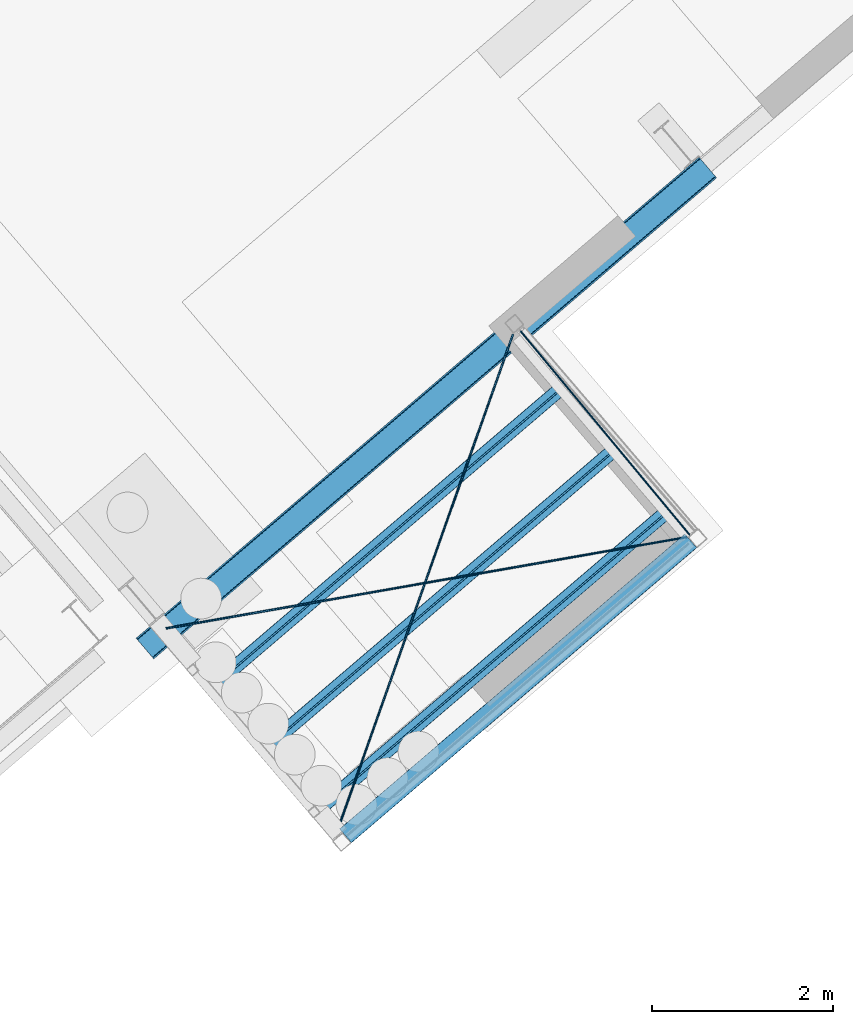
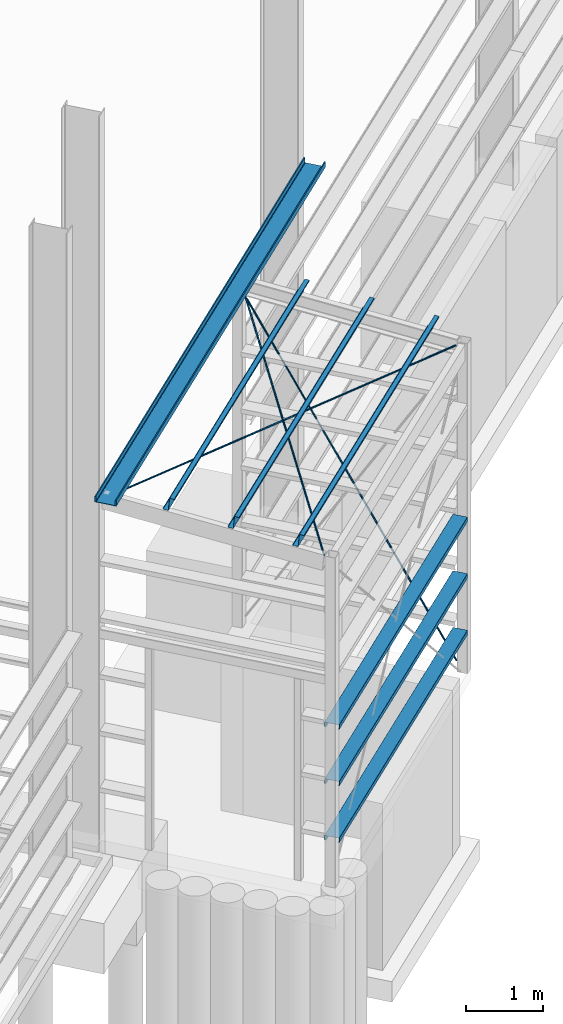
# One storey, part 21 of 41: 9 beams, 1 member, 2 elements without a shape of their own.
"""IFC2X3 building model written with IfcOpenShell, lengths in millimetres."""

from ifc_helpers import new_model, entity, si_unit, converted_unit, derived_unit, direction, frame, frame_2d, origin, place, context, subcontext, project, spatial, polyline, circle_curve, parameter, trimmed, segment, composite_curve, circle, outline, extrude, source, transform, mapped, material, type_object, type_shapes, element, aggregate, save


model = new_model("IFC2X3")

# Units and contexts
model_context = context("Model", 3, precision=0.01, world=origin(), true_north=direction((6.123031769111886e-17, 1.0)))
body_context = subcontext(model_context, "Body", "Model", "MODEL_VIEW")
ifc_project = project(units=[si_unit("LENGTHUNIT", "METRE", prefix="MILLI"), si_unit("AREAUNIT", "SQUARE_METRE"), si_unit("VOLUMEUNIT", "CUBIC_METRE"), converted_unit("PLANEANGLEUNIT", "DEGREE", entity("IfcRatioMeasure", 0.017453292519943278), si_unit("PLANEANGLEUNIT", "RADIAN"), dimensions=[0, 0, 0, 0, 0, 0, 0]), si_unit("MASSUNIT", "GRAM", prefix="KILO"), derived_unit("MASSDENSITYUNIT", [(si_unit("MASSUNIT", "GRAM", prefix="KILO"), 1), (si_unit("LENGTHUNIT", "METRE"), -3)]), derived_unit("MOMENTOFINERTIAUNIT", [(si_unit("LENGTHUNIT", "METRE"), 4)]), si_unit("TIMEUNIT", "SECOND"), si_unit("FREQUENCYUNIT", "HERTZ"), si_unit("THERMODYNAMICTEMPERATUREUNIT", "DEGREE_CELSIUS"), derived_unit("THERMALTRANSMITTANCEUNIT", [(si_unit("MASSUNIT", "GRAM", prefix="KILO"), 1), (si_unit("THERMODYNAMICTEMPERATUREUNIT", "KELVIN"), -1), (si_unit("TIMEUNIT", "SECOND"), -3)]), derived_unit("VOLUMETRICFLOWRATEUNIT", [(si_unit("LENGTHUNIT", "METRE"), 3), (si_unit("TIMEUNIT", "SECOND"), -1)]), derived_unit("MASSFLOWRATEUNIT", [(si_unit("MASSUNIT", "GRAM", prefix="KILO"), 1), (si_unit("TIMEUNIT", "SECOND"), -1)]), derived_unit("ROTATIONALFREQUENCYUNIT", [(si_unit("TIMEUNIT", "SECOND"), -1)]), si_unit("ELECTRICCURRENTUNIT", "AMPERE"), si_unit("ELECTRICVOLTAGEUNIT", "VOLT"), si_unit("POWERUNIT", "WATT"), si_unit("FORCEUNIT", "NEWTON", prefix="KILO"), si_unit("ILLUMINANCEUNIT", "LUX"), si_unit("LUMINOUSFLUXUNIT", "LUMEN"), si_unit("LUMINOUSINTENSITYUNIT", "CANDELA"), derived_unit("USERDEFINED", [(si_unit("MASSUNIT", "GRAM", prefix="KILO"), -1), (si_unit("LENGTHUNIT", "METRE"), -2), (si_unit("TIMEUNIT", "SECOND"), 3), (si_unit("LUMINOUSFLUXUNIT", "LUMEN"), 1)]), derived_unit("SOUNDPOWERUNIT", [(si_unit("MASSUNIT", "GRAM", prefix="KILO"), 1), (si_unit("LENGTHUNIT", "METRE"), 2), (si_unit("TIMEUNIT", "SECOND"), -3)]), derived_unit("LINEARVELOCITYUNIT", [(si_unit("LENGTHUNIT", "METRE"), 1), (si_unit("TIMEUNIT", "SECOND"), -1)]), si_unit("PRESSUREUNIT", "PASCAL"), derived_unit("USERDEFINED", [(si_unit("LENGTHUNIT", "METRE"), -2), (si_unit("MASSUNIT", "GRAM", prefix="KILO"), 1), (si_unit("TIMEUNIT", "SECOND"), -2)]), derived_unit("LINEARFORCEUNIT", [(si_unit("MASSUNIT", "GRAM", prefix="KILO"), 1), (si_unit("LENGTHUNIT", "METRE"), 1), (si_unit("TIMEUNIT", "SECOND"), -2), (si_unit("LENGTHUNIT", "METRE"), -1)]), derived_unit("PLANARFORCEUNIT", [(si_unit("MASSUNIT", "GRAM", prefix="KILO"), 1), (si_unit("LENGTHUNIT", "METRE"), 1), (si_unit("TIMEUNIT", "SECOND"), -2), (si_unit("LENGTHUNIT", "METRE"), -2)])], contexts=[model_context])

# Site, building, storey
site_placement = place(None, frame((962.4174930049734, -6014.433753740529, 0.0), z_axis=(0.0, 0.0, 1.0), x_axis=(0.7601792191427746, 0.649713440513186, 0.0)))
site = spatial("IfcSite", under=ifc_project, at=site_placement, Name="Default", CompositionType="ELEMENT")
building_placement = place(site_placement, origin())
building = spatial("IfcBuilding", under=site, at=building_placement, CompositionType="ELEMENT")
storey_placement = place(building_placement, origin())
storey = spatial("IfcBuildingStorey", under=building, at=storey_placement, Name="Datum", CompositionType="ELEMENT", Elevation=0.0)

# Member
ifc_material_1 = material(Name="<Unnamed>")
member_type = type_object("IfcMemberType", Name="ADSK_AU_Round Bars (AS 3679_1):20ROD", PredefinedType="BRACE", material=ifc_material_1)
shared_shape = source(origin(), body_context, "Body", "SweptSolid", [
    extrude(circle(Radius=10.000000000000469, at=frame_2d((4.211321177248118e-16, 1.7947984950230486e-14), x_axis=(1.0, 0.0))), frame((-2889.1338505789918, 0.0, 0.0), z_axis=(1.0, 0.0, 0.0), x_axis=(0.0, -1.0, 0.0)), (0.0, 0.0, 1.0), 5825.335933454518),
])
type_shapes(member_type, [shared_shape])
member_placement = place(storey_placement, frame((159673.08620660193, -27741.70762765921, 2696.868414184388), z_axis=(-0.012549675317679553, -0.8658640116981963, 0.5001220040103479), x_axis=(-0.007247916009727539, -0.5000694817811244, -0.865954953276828)))
element("IfcMember", 1, at=member_placement, inside=storey, type_object=member_type, material=ifc_material_1, Name="ADSK_AU_Round Bars (AS 3679_1):20ROD", ObjectType="ADSK_AU_Round Bars (AS 3679_1):20ROD", context=body_context, shape_type="MappedRepresentation", body=[
    mapped(shared_shape, transform((0.0, 0.0, 0.0), scale=1.0)),
])

# Beams
ifc_material_2 = material(Name="Metal - Light Gauge Painted")
beam_type_1 = type_object("IfcBeamType", Name="ADSK_AU_PFC-Parallel Flange Channels (AS 3679_1):300PFC", PredefinedType="NOTDEFINED")
beam_1_placement = place(building_placement, frame((154477.93480751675, -26113.42808212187, 5532.200000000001)))
element("IfcBeam", 2, at=beam_1_placement, inside=storey, type_object=beam_type_1, material=ifc_material_2, Name="ADSK_AU_PFC-Parallel Flange Channels (AS 3679_1):300PFC", ObjectType="ADSK_AU_PFC-Parallel Flange Channels (AS 3679_1):300PFC", context=body_context, shape_type="SweptSolid", body=[
    extrude(outline(composite_curve([segment(polyline([(-48.0, -150.0), (42.0, -150.0)]), True, "CONTINUOUS"), segment(polyline([(42.0, -150.0), (42.0, 150.0)]), True, "CONTINUOUS"), segment(polyline([(42.0, 150.0), (-48.0, 150.0)]), True, "CONTINUOUS"), segment(polyline([(-48.0, 150.0), (-48.0, 134.0)]), True, "CONTINUOUS"), segment(polyline([(-48.0, 134.0), (20.0, 134.0)]), True, "CONTINUOUS"), segment(trimmed(circle_curve(frame_2d((20.0, 120.0), x_axis=(0.0, 1.0)), 14.000000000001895), [parameter(270.0000000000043)], [parameter(0.0)], True, "PARAMETER"), False, "CONTINUOUS"), segment(polyline([(34.0, 120.0), (34.0, -120.0)]), True, "CONTINUOUS"), segment(trimmed(circle_curve(frame_2d((20.0, -120.0), x_axis=(1.0, 0.0)), 14.000000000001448), [parameter(270.0000000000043)], [parameter(0.0)], True, "PARAMETER"), False, "CONTINUOUS"), segment(polyline([(20.0, -134.0), (-48.0, -134.0)]), True, "CONTINUOUS"), segment(polyline([(-48.0, -134.0), (-48.0, -150.0)]), True, "CONTINUOUS")], self_intersect=False)), frame((-209.0, -150.0, 14.800000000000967), z_axis=(1.0, 0.0, 0.0), x_axis=(0.0, 0.0, -1.0)), (0.0, 0.0, 1.0), 8168.200000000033),
])
ifc_material_3 = material(Name="Metal - Light Gauge")
beam_type_2 = type_object("IfcBeamType", Name="ADSK_AU_Round Bars (AS 3679_1):20ROD", PredefinedType="NOTDEFINED")
beam_2_placement = place(building_placement, frame((154556.2178569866, -29182.43313797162, 5200.0), z_axis=(-0.03720040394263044, -0.02147766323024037, 0.9990769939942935), x_axis=(0.8652260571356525, 0.4995384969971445, 0.042955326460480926)))
element("IfcBeam", 3, at=beam_2_placement, inside=storey, type_object=beam_type_2, material=ifc_material_3, Name="ADSK_AU_Round Bars (AS 3679_1):20ROD", ObjectType="ADSK_AU_Round Bars (AS 3679_1):20ROD", context=body_context, shape_type="SweptSolid", body=[
    extrude(circle(Radius=9.999999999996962, at=frame_2d((-1.0553410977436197e-24, 3.2456029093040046e-12), x_axis=(1.0, 0.0))), frame((0.0, 0.0, -10.0), z_axis=(1.0, 0.0, 0.0), x_axis=(0.0, -1.0, 0.0)), (0.0, 0.0, 1.0), 5836.200000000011),
])
beam_3_placement = place(storey_placement, frame((159666.04435496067, -29245.132710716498, 5200.0), z_axis=(0.03647906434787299, -0.021557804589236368, 0.9991018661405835), x_axis=(-0.8601327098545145, 0.5083072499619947, 0.04237288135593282)))
element("IfcBeam", 4, at=beam_3_placement, inside=storey, type_object=beam_type_2, material=ifc_material_3, Name="ADSK_AU_Round Bars (AS 3679_1):20ROD", ObjectType="ADSK_AU_Round Bars (AS 3679_1):20ROD", context=body_context, shape_type="SweptSolid", body=[
    extrude(circle(Radius=10.00000000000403, at=frame_2d((-3.728986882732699e-12, -7.666638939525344e-12), x_axis=(1.0, 0.0))), frame((64.39999999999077, 0.0, -10.0), z_axis=(1.0, 0.0, 0.0), x_axis=(0.0, -1.0, 0.0)), (0.0, 0.0, 1.0), 5835.600000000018),
])

# Assembly, beams
assembly_1_placement = place(building_placement, origin())
assembly_1 = element("IfcElementAssembly", 5, at=assembly_1_placement, inside=storey, Name="Structural Beam System:Structural Beam System 1", ObjectType="Structural Beam System:Structural Beam System 1", AssemblyPlace="NOTDEFINED", PredefinedType="BEAM_GRID")
ifc_material_4 = material(Name="Metal - Steel - 345 MPa")
beam_type_3 = type_object("IfcBeamType", Name="ADSK_AU_Light Gauge-Zeds:Z20015", PredefinedType="NOTDEFINED")
beam_4_placement = place(building_placement, frame((154466.76020471, -28873.028035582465, 5503.292165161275)))
beam_4 = element("IfcBeam", 6, at=beam_4_placement, type_object=beam_type_3, material=ifc_material_4, Name="ADSK_AU_Light Gauge-Zeds:Z20015", ObjectType="ADSK_AU_Light Gauge-Zeds:Z20015", context=body_context, shape_type="SweptSolid", body=[
    extrude(outline(composite_curve([segment(polyline([(100.0, 1.0), (100.0, -69.0)]), True, "CONTINUOUS"), segment(trimmed(circle_curve(frame_2d((98.0, -69.0), x_axis=(0.0, -1.0)), 2.000000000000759), [parameter(0.0)], [parameter(90.00000000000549)], True, "PARAMETER"), False, "CONTINUOUS"), segment(polyline([(98.0, -71.0), (81.49999999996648, -71.0)]), True, "CONTINUOUS"), segment(polyline([(81.49999999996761, -71.0), (81.49999999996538, -72.5000000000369)]), True, "CONTINUOUS"), segment(polyline([(81.49999999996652, -72.50000000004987), (98.0, -72.50000000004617)]), True, "CONTINUOUS"), segment(trimmed(circle_curve(frame_2d((98.0, -69.0), x_axis=(1.0, 0.0)), 3.500000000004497), [parameter(270.00000000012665)], [parameter(0.0)], True, "PARAMETER"), True, "CONTINUOUS"), segment(polyline([(101.49999999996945, -69.0), (101.50000000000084, 1.0)]), True, "CONTINUOUS"), segment(trimmed(circle_curve(frame_2d((98.0, 1.0), x_axis=(0.0, 1.0)), 3.500000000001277), [parameter(270.00000000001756)], [parameter(0.0)], True, "PARAMETER"), True, "CONTINUOUS"), segment(polyline([(98.0, 4.499999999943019), (-98.0, 4.500000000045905)]), True, "CONTINUOUS"), segment(trimmed(circle_curve(frame_2d((-98.0, 6.500000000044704), x_axis=(-1.0, 0.0)), 1.9999999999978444), [parameter(0.0)], [parameter(90.00000000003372)], True, "PARAMETER"), False, "CONTINUOUS"), segment(polyline([(-100.0, 6.500000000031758), (-100.0, 64.0)]), True, "CONTINUOUS"), segment(trimmed(circle_curve(frame_2d((-98.0, 64.0), x_axis=(0.0, 1.0)), 2.0000000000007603), [parameter(0.0)], [parameter(90.00000000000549)], True, "PARAMETER"), False, "CONTINUOUS"), segment(polyline([(-98.0, 66.0), (-81.49999999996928, 66.0)]), True, "CONTINUOUS"), segment(polyline([(-81.49999999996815, 66.0), (-81.49999999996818, 67.50000000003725)]), True, "CONTINUOUS"), segment(polyline([(-81.49999999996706, 67.50000000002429), (-98.0, 67.5000000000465)]), True, "CONTINUOUS"), segment(trimmed(circle_curve(frame_2d((-98.0, 64.0), x_axis=(-1.0, 0.0)), 3.500000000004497), [parameter(270.00000000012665)], [parameter(0.0)], True, "PARAMETER"), True, "CONTINUOUS"), segment(polyline([(-101.49999999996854, 64.0), (-101.49999999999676, 6.500000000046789)]), True, "CONTINUOUS"), segment(trimmed(circle_curve(frame_2d((-98.0, 6.500000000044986), x_axis=(0.0, -1.0)), 3.500000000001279), [parameter(270.00000000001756)], [parameter(0.0)], True, "PARAMETER"), True, "CONTINUOUS"), segment(polyline([(-98.0, 3.0), (98.0, 3.0)]), True, "CONTINUOUS"), segment(trimmed(circle_curve(frame_2d((98.0, 1.0), x_axis=(1.0, 0.0)), 1.9999999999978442), [parameter(0.0)], [parameter(90.00000000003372)], True, "PARAMETER"), False, "CONTINUOUS")], self_intersect=False)), frame((0.3999999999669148, 13.329184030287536, -100.72156101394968), z_axis=(-1.0, 0.0, 0.0), x_axis=(0.0, 0.0871557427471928, -0.9961946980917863)), (0.0, 0.0, -1.0), 5283.9999999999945),
])
beam_5_placement = place(building_placement, frame((154466.76020471, -27976.452807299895, 5581.732333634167)))
beam_5 = element("IfcBeam", 7, at=beam_5_placement, type_object=beam_type_3, material=ifc_material_4, Name="ADSK_AU_Light Gauge-Zeds:Z20015", ObjectType="ADSK_AU_Light Gauge-Zeds:Z20015", context=body_context, shape_type="SweptSolid", body=[
    extrude(outline(composite_curve([segment(polyline([(100.0, 1.0), (100.0, -69.0)]), True, "CONTINUOUS"), segment(trimmed(circle_curve(frame_2d((98.0, -69.0), x_axis=(0.0, -1.0)), 2.000000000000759), [parameter(0.0)], [parameter(90.00000000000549)], True, "PARAMETER"), False, "CONTINUOUS"), segment(polyline([(98.0, -71.0), (81.49999999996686, -71.0)]), True, "CONTINUOUS"), segment(polyline([(81.499999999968, -71.0), (81.49999999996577, -72.50000000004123)]), True, "CONTINUOUS"), segment(polyline([(81.4999999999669, -72.50000000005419), (98.0, -72.50000000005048)]), True, "CONTINUOUS"), segment(trimmed(circle_curve(frame_2d((98.0, -69.0), x_axis=(1.0, 0.0)), 3.500000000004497), [parameter(270.00000000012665)], [parameter(0.0)], True, "PARAMETER"), True, "CONTINUOUS"), segment(polyline([(101.49999999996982, -69.0), (101.50000000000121, 1.0)]), True, "CONTINUOUS"), segment(trimmed(circle_curve(frame_2d((98.0, 1.0), x_axis=(0.0, 1.0)), 3.500000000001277), [parameter(270.00000000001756)], [parameter(0.0)], True, "PARAMETER"), True, "CONTINUOUS"), segment(polyline([(98.0, 4.499999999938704), (-98.0, 4.500000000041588)]), True, "CONTINUOUS"), segment(trimmed(circle_curve(frame_2d((-98.0, 6.500000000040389), x_axis=(-1.0, 0.0)), 1.9999999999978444), [parameter(0.0)], [parameter(90.00000000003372)], True, "PARAMETER"), False, "CONTINUOUS"), segment(polyline([(-100.0, 6.500000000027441), (-100.0, 64.0)]), True, "CONTINUOUS"), segment(trimmed(circle_curve(frame_2d((-98.0, 64.0), x_axis=(0.0, 1.0)), 2.0000000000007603), [parameter(0.0)], [parameter(90.00000000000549)], True, "PARAMETER"), False, "CONTINUOUS"), segment(polyline([(-98.0, 66.0), (-81.4999999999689, 66.0)]), True, "CONTINUOUS"), segment(polyline([(-81.49999999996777, 66.0), (-81.49999999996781, 67.50000000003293)]), True, "CONTINUOUS"), segment(polyline([(-81.49999999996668, 67.50000000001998), (-98.0, 67.50000000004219)]), True, "CONTINUOUS"), segment(trimmed(circle_curve(frame_2d((-98.0, 64.0), x_axis=(-1.0, 0.0)), 3.500000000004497), [parameter(270.00000000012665)], [parameter(0.0)], True, "PARAMETER"), True, "CONTINUOUS"), segment(polyline([(-101.49999999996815, 64.0), (-101.49999999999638, 6.500000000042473)]), True, "CONTINUOUS"), segment(trimmed(circle_curve(frame_2d((-98.0, 6.5000000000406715), x_axis=(0.0, -1.0)), 3.500000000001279), [parameter(270.00000000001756)], [parameter(0.0)], True, "PARAMETER"), True, "CONTINUOUS"), segment(polyline([(-98.0, 3.0), (98.0, 3.0)]), True, "CONTINUOUS"), segment(trimmed(circle_curve(frame_2d((98.0, 1.0), x_axis=(1.0, 0.0)), 1.9999999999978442), [parameter(0.0)], [parameter(90.00000000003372)], True, "PARAMETER"), False, "CONTINUOUS")], self_intersect=False)), frame((0.39999999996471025, 13.329184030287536, -100.72156101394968), z_axis=(-1.0, 0.0, 0.0), x_axis=(0.0, 0.0871557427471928, -0.9961946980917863)), (0.0, 0.0, -1.0), 5283.9999999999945),
])
beam_6_placement = place(building_placement, frame((154466.76020471, -27079.87757901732, 5660.17250210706)))
beam_6 = element("IfcBeam", 8, at=beam_6_placement, type_object=beam_type_3, material=ifc_material_4, Name="ADSK_AU_Light Gauge-Zeds:Z20015", ObjectType="ADSK_AU_Light Gauge-Zeds:Z20015", context=body_context, shape_type="SweptSolid", body=[
    extrude(outline(composite_curve([segment(polyline([(100.0, 1.0), (100.0, -69.0)]), True, "CONTINUOUS"), segment(trimmed(circle_curve(frame_2d((98.0, -69.0), x_axis=(0.0, -1.0)), 2.000000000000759), [parameter(0.0)], [parameter(90.00000000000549)], True, "PARAMETER"), False, "CONTINUOUS"), segment(polyline([(98.0, -71.0), (81.49999999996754, -71.0)]), True, "CONTINUOUS"), segment(polyline([(81.49999999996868, -71.0), (81.49999999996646, -72.5000000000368)]), True, "CONTINUOUS"), segment(polyline([(81.4999999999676, -72.50000000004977), (98.0, -72.50000000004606)]), True, "CONTINUOUS"), segment(trimmed(circle_curve(frame_2d((98.0, -69.0), x_axis=(1.0, 0.0)), 3.500000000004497), [parameter(270.00000000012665)], [parameter(0.0)], True, "PARAMETER"), True, "CONTINUOUS"), segment(polyline([(101.49999999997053, -69.0), (101.5000000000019, 1.0)]), True, "CONTINUOUS"), segment(trimmed(circle_curve(frame_2d((98.0, 1.0), x_axis=(0.0, 1.0)), 3.500000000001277), [parameter(270.00000000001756)], [parameter(0.0)], True, "PARAMETER"), True, "CONTINUOUS"), segment(polyline([(98.0, 4.499999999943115), (-98.0, 4.500000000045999)]), True, "CONTINUOUS"), segment(trimmed(circle_curve(frame_2d((-98.0, 6.5000000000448), x_axis=(-1.0, 0.0)), 1.9999999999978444), [parameter(0.0)], [parameter(90.00000000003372)], True, "PARAMETER"), False, "CONTINUOUS"), segment(polyline([(-100.0, 6.500000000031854), (-100.0, 64.0)]), True, "CONTINUOUS"), segment(trimmed(circle_curve(frame_2d((-98.0, 64.0), x_axis=(0.0, 1.0)), 2.0000000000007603), [parameter(0.0)], [parameter(90.00000000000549)], True, "PARAMETER"), False, "CONTINUOUS"), segment(polyline([(-98.0, 66.0), (-81.4999999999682, 66.0)]), True, "CONTINUOUS"), segment(polyline([(-81.49999999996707, 66.0), (-81.4999999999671, 67.50000000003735)]), True, "CONTINUOUS"), segment(polyline([(-81.49999999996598, 67.5000000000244), (-98.0, 67.5000000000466)]), True, "CONTINUOUS"), segment(trimmed(circle_curve(frame_2d((-98.0, 64.0), x_axis=(-1.0, 0.0)), 3.500000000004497), [parameter(270.00000000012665)], [parameter(0.0)], True, "PARAMETER"), True, "CONTINUOUS"), segment(polyline([(-101.49999999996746, 64.0), (-101.49999999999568, 6.500000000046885)]), True, "CONTINUOUS"), segment(trimmed(circle_curve(frame_2d((-98.0, 6.500000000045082), x_axis=(0.0, -1.0)), 3.500000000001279), [parameter(270.00000000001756)], [parameter(0.0)], True, "PARAMETER"), True, "CONTINUOUS"), segment(polyline([(-98.0, 3.0), (98.0, 3.0)]), True, "CONTINUOUS"), segment(trimmed(circle_curve(frame_2d((98.0, 1.0), x_axis=(1.0, 0.0)), 1.9999999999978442), [parameter(0.0)], [parameter(90.00000000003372)], True, "PARAMETER"), False, "CONTINUOUS")], self_intersect=False)), frame((0.39999999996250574, 13.329184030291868, -100.7215610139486), z_axis=(-1.0, 0.0, 0.0), x_axis=(0.0, 0.0871557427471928, -0.9961946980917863)), (0.0, 0.0, -1.0), 5283.9999999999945),
])
aggregate(assembly_1, [beam_4, beam_5, beam_6])

assembly_2_placement = place(building_placement, origin())
assembly_2 = element("IfcElementAssembly", 9, at=assembly_2_placement, inside=storey, Name="Structural Beam System:Structural Beam System 1", ObjectType="Structural Beam System:Structural Beam System 1", AssemblyPlace="NOTDEFINED", PredefinedType="BEAM_GRID")
beam_type_4 = type_object("IfcBeamType", Name="ADSK_AUS_Light Gauge-Joists:C20019", PredefinedType="NOTDEFINED")
beam_7_placement = place(building_placement, frame((159618.96020470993, -29170.42808212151, 2495.0), z_axis=(0.0, 0.0, 1.0), x_axis=(-1.0, 0.0, 0.0)))
beam_7 = element("IfcBeam", 10, at=beam_7_placement, type_object=beam_type_4, material=ifc_material_3, Name="ADSK_AUS_Light Gauge-Joists:C20019", ObjectType="ADSK_AUS_Light Gauge-Joists:C20019", context=body_context, shape_type="SweptSolid", body=[
    extrude(outline(composite_curve([segment(polyline([(-40.551849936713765, -101.49999999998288), (26.33184993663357, -101.49999999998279)]), True, "CONTINUOUS"), segment(trimmed(circle_curve(frame_2d((26.331849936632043, -98.44184993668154), x_axis=(0.0, -1.0)), 3.058150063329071), [parameter(0.0)], [parameter(89.99999999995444)], True, "PARAMETER"), True, "CONTINUOUS"), segment(polyline([(29.38999999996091, -98.44184993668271), (29.38999999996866, -78.49999999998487)]), True, "CONTINUOUS"), segment(polyline([(29.38999999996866, -78.50000000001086), (27.489999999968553, -78.49999999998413)]), True, "CONTINUOUS"), segment(polyline([(27.489999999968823, -78.50000000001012), (27.489999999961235, -98.02934993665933)]), True, "CONTINUOUS"), segment(trimmed(circle_curve(frame_2d((25.919349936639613, -98.02934993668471), x_axis=(1.0, 0.0)), 1.5706500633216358), [parameter(269.99999999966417)], [parameter(0.0)], True, "PARAMETER"), False, "CONTINUOUS"), segment(polyline([(25.91934993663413, -99.60000000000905), (-40.13934993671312, -99.59999999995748)]), True, "CONTINUOUS"), segment(trimmed(circle_curve(frame_2d((-40.13934993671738, -98.02934993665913), x_axis=(0.0, -1.0)), 1.570650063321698), [parameter(269.99999999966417)], [parameter(0.0)], True, "PARAMETER"), False, "CONTINUOUS"), segment(polyline([(-41.710000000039, -98.02934993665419), (-41.70999999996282, 98.02934993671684)]), True, "CONTINUOUS"), segment(trimmed(circle_curve(frame_2d((-40.139349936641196, 98.02934993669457), x_axis=(-1.0, 0.0)), 1.5706500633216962), [parameter(269.99999999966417)], [parameter(0.0)], True, "PARAMETER"), False, "CONTINUOUS"), segment(polyline([(-40.13934993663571, 99.60000000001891), (25.91934993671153, 99.6000000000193)]), True, "CONTINUOUS"), segment(trimmed(circle_curve(frame_2d((25.919349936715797, 98.02934993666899), x_axis=(0.0, 1.0)), 1.5706500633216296), [parameter(269.99999999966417)], [parameter(0.0)], True, "PARAMETER"), False, "CONTINUOUS"), segment(polyline([(27.49000000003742, 98.02934993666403), (27.49000000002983, 78.50000000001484)]), True, "CONTINUOUS"), segment(polyline([(27.49000000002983, 78.49999999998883), (29.390000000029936, 78.5000000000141)]), True, "CONTINUOUS"), segment(polyline([(29.390000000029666, 78.49999999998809), (29.390000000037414, 98.44184993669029)]), True, "CONTINUOUS"), segment(trimmed(circle_curve(frame_2d((26.331849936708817, 98.44184993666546), x_axis=(1.0, 0.0)), 3.058150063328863), [parameter(0.0)], [parameter(89.99999999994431)], True, "PARAMETER"), True, "CONTINUOUS"), segment(polyline([(26.331849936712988, 101.49999999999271), (-40.55184993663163, 101.50000000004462)]), True, "CONTINUOUS"), segment(trimmed(circle_curve(frame_2d((-40.55184993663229, 98.44184993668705), x_axis=(0.0, 1.0)), 3.0581500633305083), [parameter(0.0)], [parameter(89.99999999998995)], True, "PARAMETER"), True, "CONTINUOUS"), segment(polyline([(-43.609999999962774, 98.44184993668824), (-43.61000000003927, -98.44184993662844)]), True, "CONTINUOUS"), segment(trimmed(circle_curve(frame_2d((-40.551849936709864, -98.4418499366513), x_axis=(-1.0, 0.0)), 3.058150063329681), [parameter(0.0)], [parameter(89.99999999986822)], True, "PARAMETER"), True, "CONTINUOUS")], self_intersect=False)), frame((0.42499999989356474, 101.49999999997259, -43.61000000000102), z_axis=(1.0, 0.0, 0.0), x_axis=(0.0, 0.0, -1.0)), (0.0, 0.0, 1.0), 5010.0000000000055),
])
beam_8_placement = place(building_placement, frame((159618.96020470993, -29170.42808212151, 1595.0), z_axis=(0.0, 0.0, 1.0), x_axis=(-1.0, 0.0, 0.0)))
beam_8 = element("IfcBeam", 11, at=beam_8_placement, type_object=beam_type_4, material=ifc_material_3, Name="ADSK_AUS_Light Gauge-Joists:C20019", ObjectType="ADSK_AUS_Light Gauge-Joists:C20019", context=body_context, shape_type="SweptSolid", body=[
    extrude(outline(composite_curve([segment(polyline([(-40.551849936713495, -101.49999999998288), (26.33184993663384, -101.49999999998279)]), True, "CONTINUOUS"), segment(trimmed(circle_curve(frame_2d((26.331849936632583, -98.44184993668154), x_axis=(0.0, -1.0)), 3.058150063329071), [parameter(0.0)], [parameter(89.99999999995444)], True, "PARAMETER"), True, "CONTINUOUS"), segment(polyline([(29.38999999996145, -98.44184993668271), (29.3899999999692, -78.49999999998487)]), True, "CONTINUOUS"), segment(polyline([(29.3899999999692, -78.50000000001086), (27.489999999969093, -78.49999999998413)]), True, "CONTINUOUS"), segment(polyline([(27.489999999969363, -78.50000000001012), (27.489999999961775, -98.02934993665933)]), True, "CONTINUOUS"), segment(trimmed(circle_curve(frame_2d((25.919349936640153, -98.02934993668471), x_axis=(1.0, 0.0)), 1.5706500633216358), [parameter(269.99999999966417)], [parameter(0.0)], True, "PARAMETER"), False, "CONTINUOUS"), segment(polyline([(25.91934993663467, -99.60000000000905), (-40.13934993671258, -99.59999999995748)]), True, "CONTINUOUS"), segment(trimmed(circle_curve(frame_2d((-40.13934993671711, -98.02934993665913), x_axis=(0.0, -1.0)), 1.5706500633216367), [parameter(269.99999999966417)], [parameter(0.0)], True, "PARAMETER"), False, "CONTINUOUS"), segment(polyline([(-41.71000000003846, -98.02934993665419), (-41.70999999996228, 98.02934993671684)]), True, "CONTINUOUS"), segment(trimmed(circle_curve(frame_2d((-40.139349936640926, 98.02934993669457), x_axis=(-1.0, 0.0)), 1.5706500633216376), [parameter(269.99999999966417)], [parameter(0.0)], True, "PARAMETER"), False, "CONTINUOUS"), segment(polyline([(-40.13934993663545, 99.60000000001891), (25.9193499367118, 99.6000000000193)]), True, "CONTINUOUS"), segment(trimmed(circle_curve(frame_2d((25.919349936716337, 98.02934993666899), x_axis=(0.0, 1.0)), 1.5706500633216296), [parameter(269.99999999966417)], [parameter(0.0)], True, "PARAMETER"), False, "CONTINUOUS"), segment(polyline([(27.49000000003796, 98.02934993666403), (27.49000000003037, 78.50000000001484)]), True, "CONTINUOUS"), segment(polyline([(27.49000000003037, 78.49999999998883), (29.390000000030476, 78.5000000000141)]), True, "CONTINUOUS"), segment(polyline([(29.390000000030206, 78.49999999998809), (29.390000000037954, 98.44184993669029)]), True, "CONTINUOUS"), segment(trimmed(circle_curve(frame_2d((26.331849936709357, 98.44184993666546), x_axis=(1.0, 0.0)), 3.058150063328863), [parameter(0.0)], [parameter(89.99999999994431)], True, "PARAMETER"), True, "CONTINUOUS"), segment(polyline([(26.331849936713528, 101.49999999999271), (-40.55184993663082, 101.50000000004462)]), True, "CONTINUOUS"), segment(trimmed(circle_curve(frame_2d((-40.55184993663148, 98.44184993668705), x_axis=(0.0, 1.0)), 3.0581500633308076), [parameter(0.0)], [parameter(89.99999999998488)], True, "PARAMETER"), True, "CONTINUOUS"), segment(polyline([(-43.609999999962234, 98.44184993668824), (-43.61000000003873, -98.44184993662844)]), True, "CONTINUOUS"), segment(trimmed(circle_curve(frame_2d((-40.551849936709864, -98.44184993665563), x_axis=(-1.0, 0.0)), 3.058150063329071), [parameter(0.0)], [parameter(89.99999999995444)], True, "PARAMETER"), True, "CONTINUOUS")], self_intersect=False)), frame((0.42499999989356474, 101.49999999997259, -43.61000000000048), z_axis=(1.0, 0.0, 0.0), x_axis=(0.0, 0.0, -1.0)), (0.0, 0.0, 1.0), 5010.0000000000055),
])
beam_9_placement = place(building_placement, frame((159618.96020470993, -29170.42808212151, 695.0), z_axis=(0.0, 0.0, 1.0), x_axis=(-1.0, 0.0, 0.0)))
beam_9 = element("IfcBeam", 12, at=beam_9_placement, type_object=beam_type_4, material=ifc_material_3, Name="ADSK_AUS_Light Gauge-Joists:C20019", ObjectType="ADSK_AUS_Light Gauge-Joists:C20019", context=body_context, shape_type="SweptSolid", body=[
    extrude(outline(composite_curve([segment(polyline([(-40.55184993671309, -101.49999999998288), (26.331849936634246, -101.49999999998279)]), True, "CONTINUOUS"), segment(trimmed(circle_curve(frame_2d((26.331849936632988, -98.44184993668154), x_axis=(0.0, -1.0)), 3.0581500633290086), [parameter(0.0)], [parameter(89.99999999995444)], True, "PARAMETER"), True, "CONTINUOUS"), segment(polyline([(29.389999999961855, -98.44184993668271), (29.389999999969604, -78.49999999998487)]), True, "CONTINUOUS"), segment(polyline([(29.389999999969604, -78.50000000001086), (27.48999999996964, -78.49999999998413)]), True, "CONTINUOUS"), segment(polyline([(27.48999999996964, -78.50000000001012), (27.489999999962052, -98.02934993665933)]), True, "CONTINUOUS"), segment(trimmed(circle_curve(frame_2d((25.919349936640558, -98.02934993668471), x_axis=(1.0, 0.0)), 1.57065006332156), [parameter(269.9999999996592)], [parameter(0.0)], True, "PARAMETER"), False, "CONTINUOUS"), segment(polyline([(25.919349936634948, -99.60000000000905), (-40.13934993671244, -99.59999999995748)]), True, "CONTINUOUS"), segment(trimmed(circle_curve(frame_2d((-40.139349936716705, -98.02934993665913), x_axis=(0.0, -1.0)), 1.5706500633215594), [parameter(269.9999999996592)], [parameter(0.0)], True, "PARAMETER"), False, "CONTINUOUS"), segment(polyline([(-41.71000000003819, -98.02934993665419), (-41.70999999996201, 98.02934993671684)]), True, "CONTINUOUS"), segment(trimmed(circle_curve(frame_2d((-40.13934993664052, 98.02934993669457), x_axis=(-1.0, 0.0)), 1.5706500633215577), [parameter(269.9999999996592)], [parameter(0.0)], True, "PARAMETER"), False, "CONTINUOUS"), segment(polyline([(-40.1393499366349, 99.60000000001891), (25.919349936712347, 99.6000000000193)]), True, "CONTINUOUS"), segment(trimmed(circle_curve(frame_2d((25.919349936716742, 98.02934993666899), x_axis=(0.0, 1.0)), 1.5706500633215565), [parameter(269.9999999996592)], [parameter(0.0)], True, "PARAMETER"), False, "CONTINUOUS"), segment(polyline([(27.490000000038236, 98.02934993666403), (27.490000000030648, 78.50000000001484)]), True, "CONTINUOUS"), segment(polyline([(27.490000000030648, 78.49999999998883), (29.39000000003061, 78.5000000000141)]), True, "CONTINUOUS"), segment(polyline([(29.39000000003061, 78.49999999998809), (29.39000000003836, 98.44184993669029)]), True, "CONTINUOUS"), segment(trimmed(circle_curve(frame_2d((26.331849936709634, 98.44184993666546), x_axis=(1.0, 0.0)), 3.0581500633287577), [parameter(0.0)], [parameter(89.99999999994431)], True, "PARAMETER"), True, "CONTINUOUS"), segment(polyline([(26.33184993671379, 101.49999999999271), (-40.55184993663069, 101.50000000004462)]), True, "CONTINUOUS"), segment(trimmed(circle_curve(frame_2d((-40.551849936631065, 98.44184993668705), x_axis=(0.0, 1.0)), 3.058150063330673), [parameter(0.0)], [parameter(89.99999999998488)], True, "PARAMETER"), True, "CONTINUOUS"), segment(polyline([(-43.60999999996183, 98.44184993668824), (-43.610000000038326, -98.44184993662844)]), True, "CONTINUOUS"), segment(trimmed(circle_curve(frame_2d((-40.55184993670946, -98.44184993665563), x_axis=(-1.0, 0.0)), 3.0581500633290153), [parameter(0.0)], [parameter(89.99999999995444)], True, "PARAMETER"), True, "CONTINUOUS")], self_intersect=False)), frame((0.42499999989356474, 101.49999999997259, -43.61000000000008), z_axis=(1.0, 0.0, 0.0), x_axis=(0.0, 0.0, -1.0)), (0.0, 0.0, 1.0), 5010.0000000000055),
])
aggregate(assembly_2, [beam_7, beam_8, beam_9])

save(model, "model.ifc")
